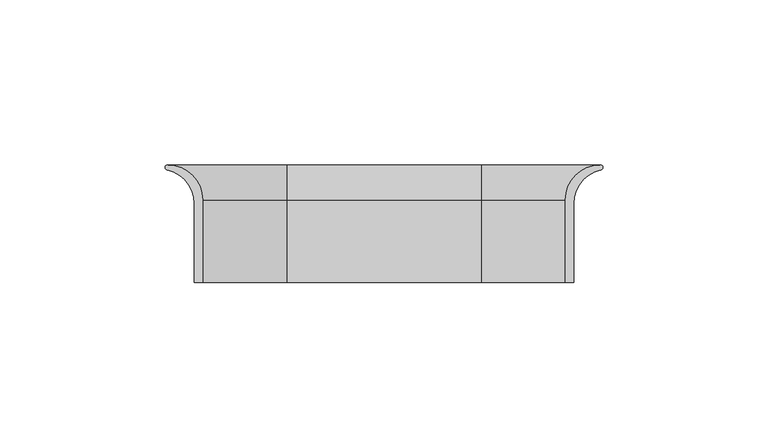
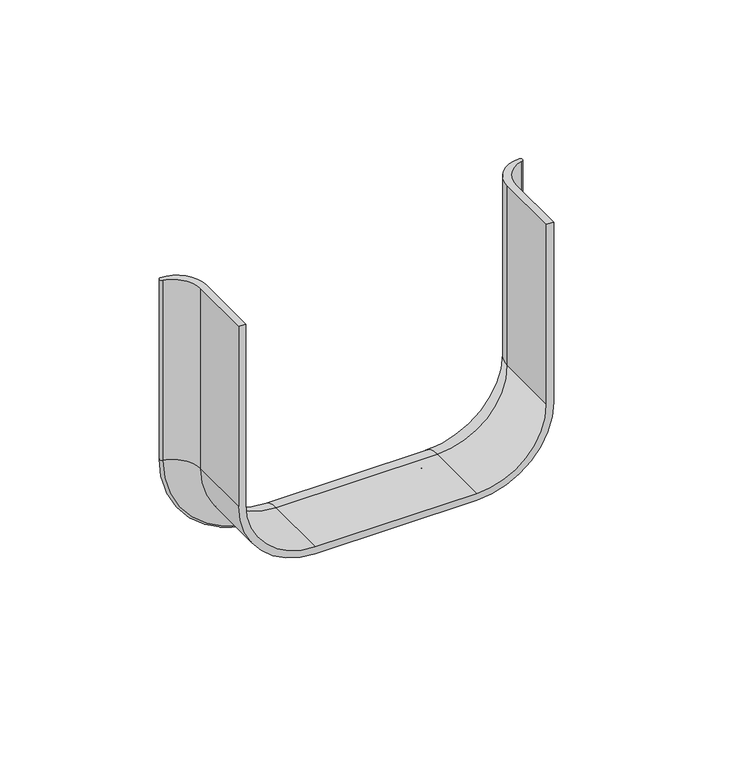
"""IFC4 building model written with IfcOpenShell, lengths in millimetres: cable carrier fitting geometry, CCT_Hyperline_FBTR-TSP Раструб для оптического лотка : Раструб для оптического лотка."""

from ifc_helpers import new_model, si_unit, point, frame, origin, place, context, project, spatial, polyline, circle_curve, ellipse_curve, trimmed, source, transform, mapped, element, save
from ifc_brep_helpers import plane_surface, cylinder_surface, revolved_surface, advanced_brep


def cable_carrier_fitting_54b00675(model_context):
    return source(origin(), model_context, "Body", "AdvancedBrep", [
        advanced_brep(
        [(-57.46, 4.416055, 50.0), (-57.46, -19.5, 50.0), (-54.8920157, -19.5, 50.0), (-54.8920157, 5.5, 50.0), (-65.4986174, 16.1066017, 50.0), (-65.4986174, 14.6066017, 50.0), (-57.46, 4.416055, -19.46), (-57.46, -19.5, -19.46), (-29.46, -19.5, -47.46), (29.46, -19.5, -47.46), (57.46, -19.5, -19.46), (57.46, -19.5, 50.0), (54.8920157, -19.5, 50.0), (54.8920157, -19.5, -19.46), (29.46, -19.5, -44.8920157), (-29.46, -19.5, -44.8920157), (-54.8920157, -19.5, -19.46), (-29.46, 4.416055, -47.46), (29.46, 4.416055, -47.46), (57.46, 4.416055, -19.46), (57.46, 4.416055, 50.0), (65.4986174, 14.6066017, 50.0), (65.4986174, 16.1066017, 50.0), (54.8920157, 5.5, 50.0), (-54.8920157, 5.5, -19.46), (-65.4986174, 16.1066017, -19.46), (-65.4986174, 14.6066017, -19.46), (-29.46, 16.1066017, -55.4986174), (-29.46, 5.5, -44.8920157), (-29.46, 14.6066017, -55.4986174), (29.46, 5.5, -44.8920157), (29.46, 16.1066017, -55.4986174), (29.46, 14.6066017, -55.4986174), (65.4986174, 16.1066017, -19.46), (54.8920157, 5.5, -19.46), (65.4986174, 14.6066017, -19.46)],
        [
            (0, 1),
            (1, 2),
            (2, 3),
            (3, 4, circle_curve(frame((-65.4986174, 5.5, 50.0), z_axis=(0.0, 0.0, 1.0), x_axis=(0.0, -1.0, 0.0)), 10.6066017)),
            (4, 5, circle_curve(frame((-65.4986174, 15.3566017, 50.0), z_axis=(0.0, 0.0, 1.0), x_axis=(0.0, -1.0, 0.0)), 0.75)),
            (5, 0, circle_curve(frame((-67.9385814, 4.416055, 50.0), z_axis=(0.0, 0.0, -1.0), x_axis=(0.0, -1.0, 0.0)), 10.4785814)),
            (0, 6),
            (6, 7),
            (7, 1),
            (7, 8, circle_curve(frame((-29.46, -19.5, -19.46), z_axis=(0.0, -1.0, 0.0), x_axis=(-1.0, 0.0, 0.0)), 28.0)),
            (8, 9),
            (9, 10, circle_curve(frame((29.46, -19.5, -19.46), z_axis=(0.0, -1.0, 0.0), x_axis=(0.0, 0.0, -1.0)), 28.0)),
            (10, 11),
            (11, 12),
            (12, 13),
            (13, 14, circle_curve(frame((29.46, -19.5, -19.46), z_axis=(0.0, 1.0, 0.0), x_axis=(0.0, 0.0, -1.0)), 25.4320156)),
            (14, 15),
            (15, 16, circle_curve(frame((-29.46, -19.5, -19.46), z_axis=(0.0, 1.0, 0.0), x_axis=(-1.0, 0.0, 0.0)), 25.4320156)),
            (16, 2),
            (6, 17, circle_curve(frame((-29.46, 4.416055, -19.46), z_axis=(0.0, -1.0, 0.0), x_axis=(-1.0, 0.0, 0.0)), 28.0)),
            (17, 8),
            (17, 18),
            (18, 9),
            (18, 19, circle_curve(frame((29.46, 4.416055, -19.46), z_axis=(0.0, -1.0, 0.0), x_axis=(0.0, 0.0, -1.0)), 28.0)),
            (19, 10),
            (20, 21, circle_curve(frame((67.9385814, 4.416055, 50.0), z_axis=(0.0, 0.0, -1.0), x_axis=(0.0, -1.0, 0.0)), 10.4785814)),
            (21, 22, circle_curve(frame((65.4986174, 15.3566017, 50.0), z_axis=(0.0, 0.0, 1.0), x_axis=(0.0, -1.0, 0.0)), 0.75)),
            (22, 23, circle_curve(frame((65.4986174, 5.5, 50.0), z_axis=(0.0, 0.0, 1.0), x_axis=(0.0, -1.0, 0.0)), 10.6066017)),
            (23, 12),
            (11, 20),
            (19, 20),
            (3, 24),
            (24, 25, circle_curve(frame((-65.4986174, 5.5, -19.46), z_axis=(0.0, 0.0, 1.0), x_axis=(0.0, -1.0, 0.0)), 10.6066017)),
            (25, 4),
            (25, 26, circle_curve(frame((-65.4986174, 15.3566017, -19.46), z_axis=(0.0, 0.0, 1.0), x_axis=(0.0, -1.0, 0.0)), 0.75)),
            (26, 5),
            (26, 6, circle_curve(frame((-67.9385814, 4.416055, -19.46), z_axis=(0.0, 0.0, -1.0), x_axis=(0.0, -1.0, 0.0)), 10.4785814)),
            (27, 25, circle_curve(frame((-29.46, 16.1066017, -19.46), z_axis=(0.0, 1.0, 0.0), x_axis=(-1.0, 0.0, 0.0)), 36.0386174)),
            (24, 28, circle_curve(frame((-29.46, 5.5, -19.46), z_axis=(0.0, -1.0, 0.0), x_axis=(-1.0, 0.0, 0.0)), 25.4320156)),
            (28, 27, circle_curve(frame((-29.46, 5.5, -55.4986174), z_axis=(-1.0, 0.0, 0.0), x_axis=(0.0, -1.0, 0.0)), 10.6066017)),
            (29, 26, circle_curve(frame((-29.46, 14.6066017, -19.46), z_axis=(0.0, 1.0, 0.0), x_axis=(-1.0, 0.0, 0.0)), 36.0386174)),
            (27, 29, circle_curve(frame((-29.46, 15.3566017, -55.4986174), z_axis=(-1.0, 0.0, 0.0), x_axis=(0.0, -1.0, 0.0)), 0.75)),
            (29, 17, circle_curve(frame((-29.46, 4.416055, -57.9385814), z_axis=(1.0, 0.0, 0.0), x_axis=(0.0, -1.0, 0.0)), 10.4785814)),
            (28, 30),
            (30, 31, circle_curve(frame((29.46, 5.5, -55.4986174), z_axis=(-1.0, 0.0, 0.0), x_axis=(0.0, -1.0, 0.0)), 10.6066017)),
            (31, 27),
            (31, 32, circle_curve(frame((29.46, 15.3566017, -55.4986174), z_axis=(-1.0, 0.0, 0.0), x_axis=(0.0, -1.0, 0.0)), 0.75)),
            (32, 29),
            (32, 18, circle_curve(frame((29.46, 4.416055, -57.9385814), z_axis=(1.0, 0.0, 0.0), x_axis=(0.0, -1.0, 0.0)), 10.4785814)),
            (33, 31, circle_curve(frame((29.46, 16.1066017, -19.46), z_axis=(0.0, 1.0, 0.0), x_axis=(0.0, 0.0, -1.0)), 36.0386174)),
            (30, 34, circle_curve(frame((29.46, 5.5, -19.46), z_axis=(0.0, -1.0, 0.0), x_axis=(0.0, 0.0, -1.0)), 25.4320156)),
            (34, 33, circle_curve(frame((65.4986174, 5.5, -19.46), z_axis=(0.0, 0.0, -1.0), x_axis=(0.0, -1.0, 0.0)), 10.6066017)),
            (35, 32, circle_curve(frame((29.46, 14.6066017, -19.46), z_axis=(0.0, 1.0, 0.0), x_axis=(0.0, 0.0, -1.0)), 36.0386174)),
            (33, 35, circle_curve(frame((65.4986174, 15.3566017, -19.46), z_axis=(0.0, 0.0, -1.0), x_axis=(0.0, -1.0, 0.0)), 0.75)),
            (35, 19, circle_curve(frame((67.9385814, 4.416055, -19.46), z_axis=(0.0, 0.0, 1.0), x_axis=(0.0, -1.0, 0.0)), 10.4785814)),
            (34, 23),
            (22, 33),
            (21, 35),
            (16, 24),
            (15, 28),
            (14, 30),
            (13, 34),
        ],
        [
            plane_surface(frame((-57.46, 0.5, 50.0), z_axis=(0.0, 0.0, 1.0), x_axis=(0.0, -1.0, 0.0))),
            plane_surface(frame((-57.46, 4.416055, 50.0), z_axis=(-1.0, 0.0, 0.0), x_axis=(0.0, 0.0, -1.0))),
            plane_surface(frame((-57.46, -19.5, 50.0), z_axis=(0.0, -1.0, 0.0), x_axis=(0.0, 0.0, -1.0))),
            cylinder_surface(frame((-29.46, 0.5, -19.46), z_axis=(0.0, -1.0, 0.0), x_axis=(-1.0, 0.0, 0.0)), 28.0),
            plane_surface(frame((-29.46, 4.416055, -47.46), z_axis=(0.0, 0.0, -1.0), x_axis=(1.0, 0.0, 0.0))),
            cylinder_surface(frame((29.46, 0.5, -19.46), z_axis=(0.0, -1.0, 0.0), x_axis=(0.0, 0.0, -1.0)), 28.0),
            plane_surface(frame((57.46, 0.5, 50.0), z_axis=(0.0, 0.0, 1.0), x_axis=(0.0, -1.0, 0.0))),
            plane_surface(frame((57.46, 4.416055, -19.46), z_axis=(1.0, 0.0, 0.0), x_axis=(0.0, 0.0, 1.0))),
            cylinder_surface(frame((-65.4986174, 5.5, 50.0), z_axis=(0.0, 0.0, 1.0), x_axis=(0.0, -1.0, 0.0)), 10.6066017),
            cylinder_surface(frame((-65.4986174, 15.3566017, 50.0), z_axis=(0.0, 0.0, 1.0), x_axis=(0.0, -1.0, 0.0)), 0.75),
            revolved_surface(polyline([(-67.9385814, -6.062526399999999, -19.460000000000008), (-67.9385814, -6.062526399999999, 50.0)]), (-67.9385814, 4.416055, 50.0), (0.0, 0.0, -1.0)),
            revolved_surface(trimmed(ellipse_curve(frame((-65.4986174, 5.5, -19.46), z_axis=(0.0, 0.0, 1.0), x_axis=(0.0, -1.0, 0.0)), 10.6066017, 10.6066017), [point((-54.8920157, 5.5, -19.46))], [point((-65.4986174, 16.1066017, -19.46))], True, "CARTESIAN"), (-29.46, 0.5, -19.46), (0.0, -1.0, 0.0)),
            revolved_surface(trimmed(ellipse_curve(frame((-65.4986174, 15.3566017, -19.46), z_axis=(0.0, 0.0, 1.0), x_axis=(0.0, -1.0, 0.0)), 0.75, 0.75), [point((-65.4986174, 16.1066017, -19.46))], [point((-65.4986174, 14.6066017, -19.46))], True, "CARTESIAN"), (-29.46, 0.5, -19.46), (0.0, -1.0, 0.0)),
            revolved_surface(trimmed(ellipse_curve(frame((-67.9385814, 4.416055, -19.46), z_axis=(0.0, 0.0, -1.0), x_axis=(0.0, -1.0, 0.0)), 10.4785814, 10.4785814), [point((-65.4986174, 14.6066017, -19.46))], [point((-57.46, 4.416055, -19.46))], True, "CARTESIAN"), (-29.46, 0.5, -19.46), (0.0, -1.0, 0.0)),
            cylinder_surface(frame((-29.46, 5.5, -55.4986174), z_axis=(-1.0, 0.0, 0.0), x_axis=(0.0, -1.0, 0.0)), 10.6066017),
            cylinder_surface(frame((-29.46, 15.3566017, -55.4986174), z_axis=(-1.0, 0.0, 0.0), x_axis=(0.0, -1.0, 0.0)), 0.75),
            revolved_surface(polyline([(29.46, -6.062526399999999, -57.9385814), (-29.46, -6.062526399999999, -57.9385814)]), (-29.46, 4.416055, -57.9385814), (1.0, 0.0, 0.0)),
            revolved_surface(trimmed(ellipse_curve(frame((29.46, 5.5, -55.4986174), z_axis=(-1.0, 0.0, 0.0), x_axis=(0.0, -1.0, 0.0)), 10.6066017, 10.6066017), [point((29.46, 5.5, -44.8920157))], [point((29.46, 16.1066017, -55.4986174))], True, "CARTESIAN"), (29.46, 0.5, -19.46), (0.0, -1.0, 0.0)),
            revolved_surface(trimmed(ellipse_curve(frame((29.46, 15.3566017, -55.4986174), z_axis=(-1.0, 0.0, 0.0), x_axis=(0.0, -1.0, 0.0)), 0.75, 0.75), [point((29.46, 16.1066017, -55.4986174))], [point((29.46, 14.6066017, -55.4986174))], True, "CARTESIAN"), (29.46, 0.5, -19.46), (0.0, -1.0, 0.0)),
            revolved_surface(trimmed(ellipse_curve(frame((29.46, 4.416055, -57.9385814), z_axis=(1.0, 0.0, 0.0), x_axis=(0.0, -1.0, 0.0)), 10.4785814, 10.4785814), [point((29.46, 14.6066017, -55.4986174))], [point((29.46, 4.416055, -47.46))], True, "CARTESIAN"), (29.46, 0.5, -19.46), (0.0, -1.0, 0.0)),
            cylinder_surface(frame((65.4986174, 5.5, -19.46), z_axis=(0.0, 0.0, -1.0), x_axis=(0.0, -1.0, 0.0)), 10.6066017),
            cylinder_surface(frame((65.4986174, 15.3566017, -19.46), z_axis=(0.0, 0.0, -1.0), x_axis=(0.0, -1.0, 0.0)), 0.75),
            revolved_surface(polyline([(67.9385814, -6.062526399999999, 50.00000000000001), (67.9385814, -6.062526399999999, -19.46)]), (67.9385814, 4.416055, -19.46), (0.0, 0.0, 1.0)),
            plane_surface(frame((-54.8920157, -19.5, 50.0), z_axis=(1.0, 0.0, 0.0), x_axis=(0.0, 0.0, -1.0))),
            revolved_surface(polyline([(-54.8920156, -19.5, -19.46), (-54.8920156, 5.5, -19.46)]), (-29.46, 0.5, -19.46), (0.0, -1.0, 0.0)),
            plane_surface(frame((-29.46, -19.5, -44.8920157), z_axis=(0.0, 0.0, 1.0), x_axis=(1.0, 0.0, 0.0))),
            revolved_surface(polyline([(29.46, -19.5, -44.8920156), (29.46, 5.5, -44.8920156)]), (29.46, 0.5, -19.46), (0.0, -1.0, 0.0)),
            plane_surface(frame((54.8920157, -19.5, -19.46), z_axis=(-1.0, 0.0, 0.0), x_axis=(0.0, 0.0, 1.0))),
        ],
        [
            (0, [[1, 2, 3, 4, 5, 6]]),
            (1, [[-1, 7, 8, 9]]),
            (2, [[-2, -9, 10, 11, 12, 13, 14, 15, 16, 17, 18, 19]]),
            (3, [[-10, -8, 20, 21]]),
            (4, [[-21, 22, 23, -11]]),
            (5, [[-12, -23, 24, 25]]),
            (6, [[26, 27, 28, 29, -14, 30]]),
            (7, [[-25, 31, -30, -13]]),
            (8, [[-4, 32, 33, 34]]),
            (9, [[-5, -34, 35, 36]]),
            (10, [[-6, -36, 37, -7]]),
            (11, [[38, -33, 39, 40]]),
            (12, [[41, -35, -38, 42]]),
            (13, [[-20, -37, -41, 43]]),
            (14, [[-40, 44, 45, 46]]),
            (15, [[-42, -46, 47, 48]]),
            (16, [[-43, -48, 49, -22]]),
            (17, [[50, -45, 51, 52]]),
            (18, [[53, -47, -50, 54]]),
            (19, [[-24, -49, -53, 55]]),
            (20, [[-52, 56, -28, 57]]),
            (21, [[-54, -57, -27, 58]]),
            (22, [[-55, -58, -26, -31]]),
            (23, [[-3, -19, 59, -32]]),
            (24, [[-39, -59, -18, 60]]),
            (25, [[-60, -17, 61, -44]]),
            (26, [[-51, -61, -16, 62]]),
            (27, [[-62, -15, -29, -56]]),
        ],
    ),
    ])


if __name__ == "__main__":
    model = new_model("IFC4")
    model_context = context("Model", 3, world=origin())
    ifc_project = project(units=[si_unit("LENGTHUNIT", "METRE", prefix="MILLI")], contexts=[model_context])
    site = spatial("IfcSite", under=ifc_project)
    building = spatial("IfcBuilding", under=site)
    placement = place(None, origin())
    cable_carrier_fitting_shape = cable_carrier_fitting_54b00675(model_context)
    element("IfcCableCarrierFitting", 1, ObjectType="CCT_Hyperline_FBTR-TSP Раструб для оптического лотка : Раструб для оптического лотка", at=placement, inside=building, context=model_context, shape_type="MappedRepresentation", body=[
        mapped(cable_carrier_fitting_shape, transform((0.0, 0.0, 0.0), x_axis=(1.0, 0.0, 0.0), y_axis=(0.0, 1.0, 0.0), z_axis=(0.0, 0.0, 1.0))),
    ])
    save(model, "model.ifc")
